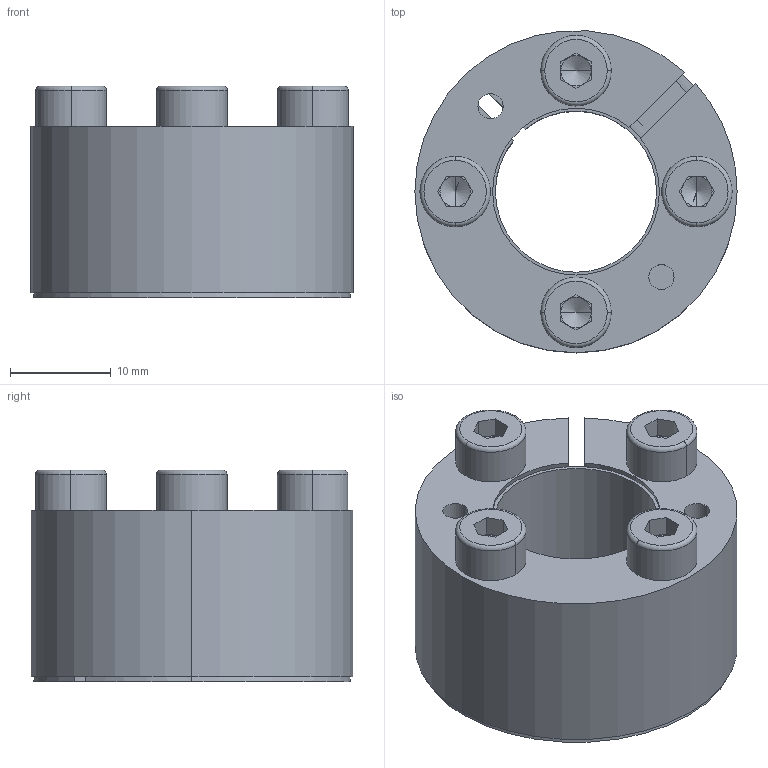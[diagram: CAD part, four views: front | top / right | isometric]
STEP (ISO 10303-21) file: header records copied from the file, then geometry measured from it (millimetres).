
FILE_DESCRIPTION (( 'STEP AP214' ), '1' );
FILE_NAME ('CONEX-K-16x32.step', '2013-04-06T13:20:36', ( 'Pc' ), ( '' ), 'SwSTEP 2.0', 'SolidWorks 2013', '' );
FILE_SCHEMA (( 'AUTOMOTIVE_DESIGN' ));
Length unit declared in the file: millimetre
Products named in the file (1): CONEX-K-16x32
Bounding box: 32 x 31.95 x 21.01 mm (x, y, z)
Volume: 8423 mm3; surface area: 9026 mm2
Topology: 6 solids, 6 shells, 162 faces, 378 edges, 228 vertices
Faces by surface type: plane 70, cylinder 48, cone 28, torus 16
Entity records: 6473 total; most frequent: DIRECTION 866, CARTESIAN_POINT 785, ORIENTED_EDGE 740, EDGE_CURVE 370, AXIS2_PLACEMENT_3D 341, VERTEX_POINT 228, EDGE_LOOP 190, LINE 184
